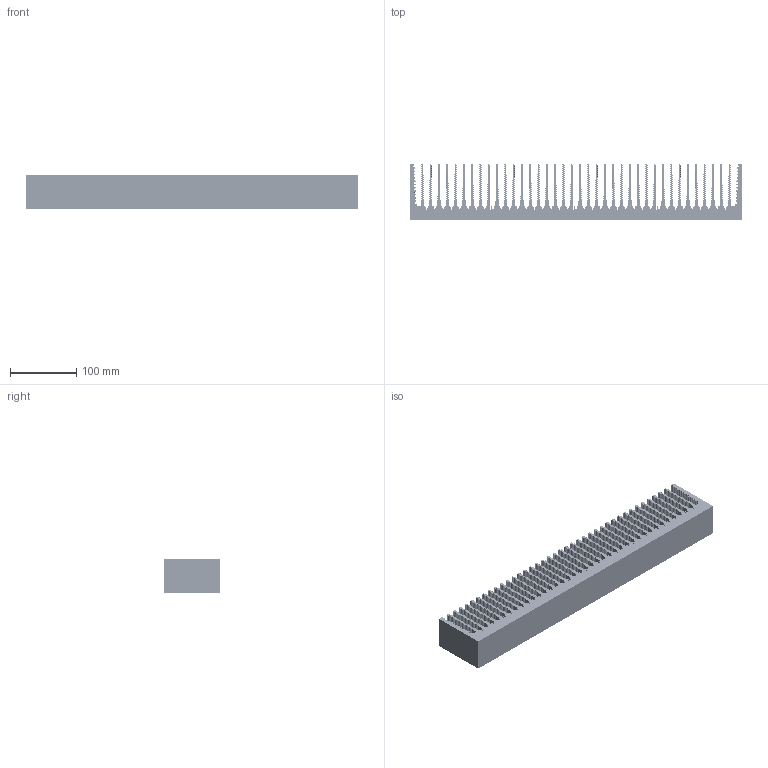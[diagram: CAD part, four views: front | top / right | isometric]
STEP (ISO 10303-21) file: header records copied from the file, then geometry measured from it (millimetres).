
FILE_DESCRIPTION (( 'STEP AP214' ), '1' );
FILE_NAME ('PR257_komplett.STEP', '2009-10-06T09:35:09', ( 'Alutronic' ), ( 'Alutronic' ), 'SwSTEP 2.0', 'SolidWorks 2008', '' );
FILE_SCHEMA (( 'AUTOMOTIVE_DESIGN' ));
Length unit declared in the file: millimetre
Products named in the file (3): PR257_Grund_Standard; PR257_komplett; RippePR257_Standard
Assembly tree (39 placements, depth 2):
  PR257_komplett
    RippePR257_Standard  x38
    PR257_Grund_Standard
Bounding box: 500 x 83.5 x 50 mm (x, y, z)
Volume: 943862.4 mm3; surface area: 526595.6 mm2
Topology: 39 solids, 39 shells, 4878 faces, 14400 edges, 9600 vertices
Faces by surface type: cylinder 4293, plane 585
Entity records: 18859 total; most frequent: CARTESIAN_POINT 3316, ORIENTED_EDGE 3270, DIRECTION 3263, EDGE_CURVE 1635, VECTOR 1189, LINE 1189, VERTEX_POINT 1090, AXIS2_PLACEMENT_3D 1037
